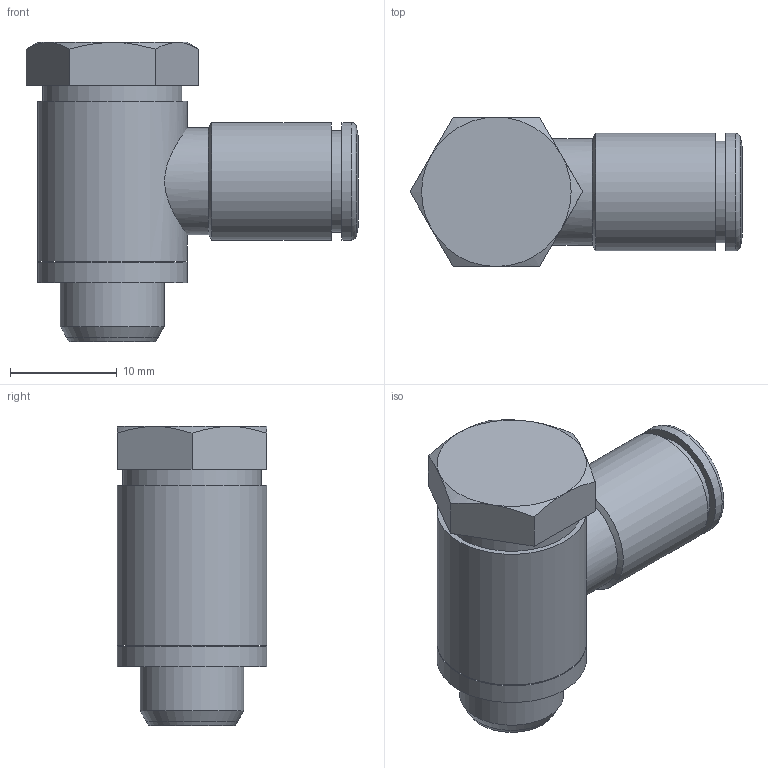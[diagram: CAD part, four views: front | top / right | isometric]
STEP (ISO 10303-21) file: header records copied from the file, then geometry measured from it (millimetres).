
FILE_DESCRIPTION(('Bauteilbeschreibung','HiCAD-Model','HiCAD-STEP-TRANSLATION','Bauteilbeschreibung'),'2;1');
FILE_NAME('B:/ABGLEICH/ZEICHNUNGEN/STEP FÜR INTERNET/STEP/S11205_IPSO_017_6_1-8.STP','2011-08-29T14:57:47+00:00',('Konstrukteur'),('Konstrukteur Firma GmbH'),' HiCAD neXt 2008, Step 3.1.1401.2J ','HiCAD neXt 2008','confidential');
FILE_SCHEMA(('AUTOMOTIVE_DESIGN { 1 2 10303 214 0 1 1 1 }'));
Length unit declared in the file: millimetre
Products named in the file (8): S11205_IPSO_017_6_1_8; A4102; A41020; G 1_8; A00032; A00042_DTG__1_8_UNV ; DR6_1_NEU; R201205_N
Assembly tree (7 placements, depth 3):
  S11205_IPSO_017_6_1_8
    A4102
    A41020
      G 1_8
    A00032
    A00042_DTG__1_8_UNV 
    DR6_1_NEU
    R201205_N
Bounding box: 31.08 x 14 x 28 mm (x, y, z)
Volume: 3813.6 mm3; surface area: 5258.4 mm2
Topology: 6 solids, 6 shells, 93 faces, 198 edges, 124 vertices
Faces by surface type: plane 34, cylinder 33, cone 25, torus 1
Full cylindrical faces by diameter (mm): 3.5 x2, 5 x2, 6.1 x1, 6.2 x1, 7.9 x1, 8.3 x1, 8.566 x2, 9 x1, 9.5 x1, 9.6 x1, 9.7 x1, 9.728 x2, 9.9 x2, 10 x2, 10.2 x1, 10.6 x1, 11 x2, 13 x1, 14 x2
Entity records: 6934 total; most frequent: CARTESIAN_POINT 4353, DIRECTION 414, ORIENTED_EDGE 260, AXIS2_PLACEMENT_3D 195, EDGE_LOOP 166, COLOUR_RGB 130, EDGE_CURVE 130, PRESENTATION_STYLE_ASSIGNMENT 130
